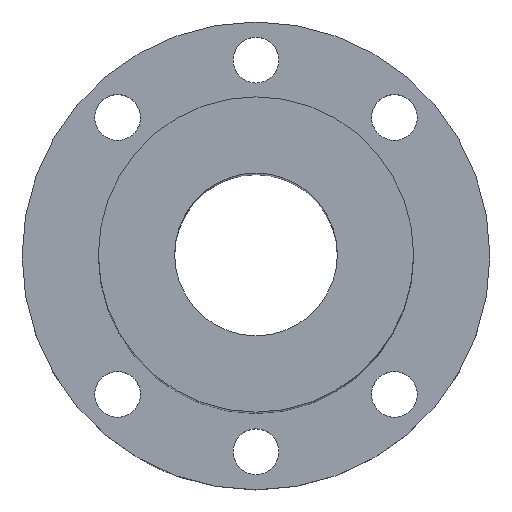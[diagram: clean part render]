
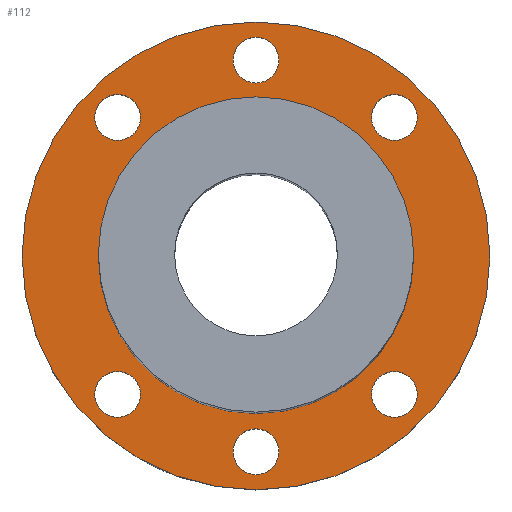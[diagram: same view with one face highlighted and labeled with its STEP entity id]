
A CAD part, top view. The second image highlights one B-rep face of the part: STEP entity #112.
In plain terms, the highlighted planar face has unit normal (0, 0, 1).
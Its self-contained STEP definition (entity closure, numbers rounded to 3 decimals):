
#99=PLANE('',#355);
#112=ADVANCED_FACE('',(#159,#160,#161,#162,#163,#164,#165,#166),#99,.T.);
#159=FACE_BOUND('',#203,.T.);
#160=FACE_BOUND('',#204,.T.);
#161=FACE_BOUND('',#205,.T.);
#162=FACE_BOUND('',#206,.T.);
#163=FACE_BOUND('',#207,.T.);
#164=FACE_BOUND('',#208,.T.);
#165=FACE_BOUND('',#209,.T.);
#166=FACE_BOUND('',#210,.T.);
#203=EDGE_LOOP('',(#247));
#204=EDGE_LOOP('',(#248));
#205=EDGE_LOOP('',(#249));
#206=EDGE_LOOP('',(#250));
#207=EDGE_LOOP('',(#251));
#208=EDGE_LOOP('',(#252));
#209=EDGE_LOOP('',(#253));
#210=EDGE_LOOP('',(#254));
#247=ORIENTED_EDGE('',*,*,#284,.T.);
#248=ORIENTED_EDGE('',*,*,#286,.T.);
#249=ORIENTED_EDGE('',*,*,#301,.F.);
#250=ORIENTED_EDGE('',*,*,#300,.T.);
#251=ORIENTED_EDGE('',*,*,#299,.F.);
#252=ORIENTED_EDGE('',*,*,#298,.F.);
#253=ORIENTED_EDGE('',*,*,#297,.T.);
#254=ORIENTED_EDGE('',*,*,#302,.T.);
#262=VERTEX_POINT('',#437);
#264=VERTEX_POINT('',#499);
#275=VERTEX_POINT('',#582);
#276=VERTEX_POINT('',#585);
#277=VERTEX_POINT('',#588);
#278=VERTEX_POINT('',#591);
#279=VERTEX_POINT('',#594);
#280=VERTEX_POINT('',#597);
#284=EDGE_CURVE('',#262,#262,#306,.T.);
#286=EDGE_CURVE('',#264,#264,#307,.T.);
#297=EDGE_CURVE('',#275,#275,#317,.T.);
#298=EDGE_CURVE('',#276,#276,#318,.T.);
#299=EDGE_CURVE('',#277,#277,#319,.T.);
#300=EDGE_CURVE('',#278,#278,#320,.T.);
#301=EDGE_CURVE('',#279,#279,#321,.T.);
#302=EDGE_CURVE('',#280,#280,#322,.T.);
#306=CIRCLE('',#327,46.);
#307=CIRCLE('',#329,31.);
#317=CIRCLE('',#343,4.5);
#318=CIRCLE('',#345,4.5);
#319=CIRCLE('',#347,4.5);
#320=CIRCLE('',#349,4.5);
#321=CIRCLE('',#351,4.5);
#322=CIRCLE('',#353,4.5);
#327=AXIS2_PLACEMENT_3D('',#436,#365,#366);
#329=AXIS2_PLACEMENT_3D('',#498,#369,#370);
#343=AXIS2_PLACEMENT_3D('',#581,#397,#398);
#345=AXIS2_PLACEMENT_3D('',#584,#401,#402);
#347=AXIS2_PLACEMENT_3D('',#587,#405,#406);
#349=AXIS2_PLACEMENT_3D('',#590,#409,#410);
#351=AXIS2_PLACEMENT_3D('',#593,#413,#414);
#353=AXIS2_PLACEMENT_3D('',#596,#417,#418);
#355=AXIS2_PLACEMENT_3D('',#599,#421,#422);
#365=DIRECTION('',(0.,0.,1.));
#366=DIRECTION('',(1.,0.,0.));
#369=DIRECTION('',(0.,0.,-1.));
#370=DIRECTION('',(1.,0.,0.));
#397=DIRECTION('',(0.,0.,-1.));
#398=DIRECTION('',(1.,0.,0.));
#401=DIRECTION('',(0.,0.,1.));
#402=DIRECTION('',(-1.,0.,0.));
#405=DIRECTION('',(0.,0.,1.));
#406=DIRECTION('',(1.,0.,0.));
#409=DIRECTION('',(0.,0.,-1.));
#410=DIRECTION('',(1.,0.,0.));
#413=DIRECTION('',(0.,0.,1.));
#414=DIRECTION('',(1.,0.,0.));
#417=DIRECTION('',(0.,0.,-1.));
#418=DIRECTION('',(-1.,0.,0.));
#421=DIRECTION('',(0.,0.,1.));
#422=DIRECTION('',(1.,0.,0.));
#436=CARTESIAN_POINT('',(0.,0.,14.));
#437=CARTESIAN_POINT('',(46.,0.,14.));
#498=CARTESIAN_POINT('',(0.,0.,14.));
#499=CARTESIAN_POINT('',(31.,0.,14.));
#581=CARTESIAN_POINT('',(-27.224,-27.224,14.));
#582=CARTESIAN_POINT('',(-22.724,-27.224,14.));
#584=CARTESIAN_POINT('',(27.224,-27.224,14.));
#585=CARTESIAN_POINT('',(22.724,-27.224,14.));
#587=CARTESIAN_POINT('',(0.,38.5,14.));
#588=CARTESIAN_POINT('',(4.5,38.5,14.));
#590=CARTESIAN_POINT('',(0.,-38.5,14.));
#591=CARTESIAN_POINT('',(4.5,-38.5,14.));
#593=CARTESIAN_POINT('',(-27.224,27.224,14.));
#594=CARTESIAN_POINT('',(-22.724,27.224,14.));
#596=CARTESIAN_POINT('',(27.224,27.224,14.));
#597=CARTESIAN_POINT('',(22.724,27.224,14.));
#599=CARTESIAN_POINT('',(-9.075,9.075,14.));
